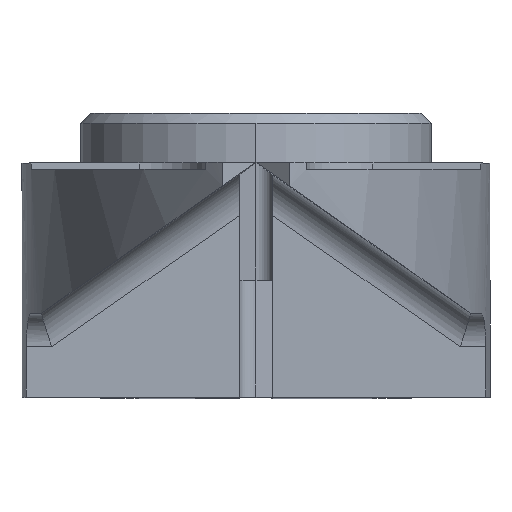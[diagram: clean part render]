
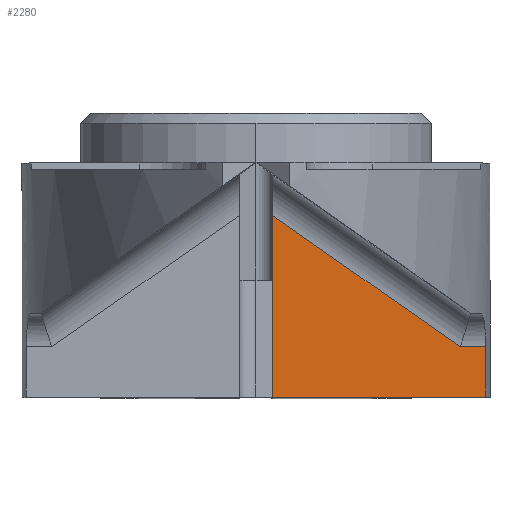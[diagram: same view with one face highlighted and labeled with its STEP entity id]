
A CAD part, top view. The second image highlights one B-rep face of the part: STEP entity #2280.
In plain terms, the highlighted planar face has unit normal (0, 0, 1).
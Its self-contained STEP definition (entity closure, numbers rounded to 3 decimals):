
#209 = EDGE_LOOP ( 'NONE', ( #4107, #2076, #2304, #2268, #3690 ) ) ;
#291 = VERTEX_POINT ( 'NONE', #4147 ) ;
#373 = EDGE_CURVE ( 'NONE', #3301, #4004, #1571, .T. ) ;
#472 = CARTESIAN_POINT ( 'NONE',  ( 6.869, 1.5, 9. ) ) ;
#473 = EDGE_CURVE ( 'NONE', #3301, #4061, #1257, .T. ) ;
#797 = CARTESIAN_POINT ( 'NONE',  ( 3.75, 0., 9. ) ) ;
#830 = CARTESIAN_POINT ( 'NONE',  ( 0.5, 5.429, 9. ) ) ;
#881 = CARTESIAN_POINT ( 'NONE',  ( -0.137, -0.543, 9. ) ) ;
#896 = VECTOR ( 'NONE', #1142, 1000. ) ;
#1078 = CARTESIAN_POINT ( 'NONE',  ( 6.869, 2.715, 9. ) ) ;
#1108 = AXIS2_PLACEMENT_3D ( 'NONE', #881, #1924, #3645 ) ;
#1124 = DIRECTION ( 'NONE',  ( 0., -1., 0. ) ) ;
#1142 = DIRECTION ( 'NONE',  ( -1., 0., 0. ) ) ;
#1257 = LINE ( 'NONE', #2755, #3006 ) ;
#1321 = VECTOR ( 'NONE', #2392, 1000. ) ;
#1571 = LINE ( 'NONE', #1592, #3323 ) ;
#1592 = CARTESIAN_POINT ( 'NONE',  ( 6.49, 1.5, 9. ) ) ;
#1757 = EDGE_CURVE ( 'NONE', #4061, #291, #2430, .T. ) ;
#1796 = LINE ( 'NONE', #797, #896 ) ;
#1924 = DIRECTION ( 'NONE',  ( 0., 0., 1. ) ) ;
#1928 = EDGE_CURVE ( 'NONE', #3238, #291, #1796, .T. ) ;
#2076 = ORIENTED_EDGE ( 'NONE', *, *, #2504, .T. ) ;
#2268 = ORIENTED_EDGE ( 'NONE', *, *, #473, .T. ) ;
#2279 = PLANE ( 'NONE',  #1108 ) ;
#2280 = ADVANCED_FACE ( 'NONE', ( #3490 ), #2279, .T. ) ;
#2304 = ORIENTED_EDGE ( 'NONE', *, *, #373, .F. ) ;
#2392 = DIRECTION ( 'NONE',  ( 0., 1., 0. ) ) ;
#2430 = LINE ( 'NONE', #3538, #4176 ) ;
#2504 = EDGE_CURVE ( 'NONE', #3238, #4004, #3178, .T. ) ;
#2755 = CARTESIAN_POINT ( 'NONE',  ( 6.111, 1.5, 9. ) ) ;
#2980 = CARTESIAN_POINT ( 'NONE',  ( 6.869, 0., 9. ) ) ;
#3006 = VECTOR ( 'NONE', #3489, 1000. ) ;
#3178 = LINE ( 'NONE', #1078, #1321 ) ;
#3238 = VERTEX_POINT ( 'NONE', #2980 ) ;
#3301 = VERTEX_POINT ( 'NONE', #4388 ) ;
#3323 = VECTOR ( 'NONE', #4350, 1000. ) ;
#3489 = DIRECTION ( 'NONE',  ( -0.819, 0.574, 0. ) ) ;
#3490 = FACE_OUTER_BOUND ( 'NONE', #209, .T. ) ;
#3538 = CARTESIAN_POINT ( 'NONE',  ( 0.5, 2.715, 9. ) ) ;
#3645 = DIRECTION ( 'NONE',  ( 1., 0., 0. ) ) ;
#3690 = ORIENTED_EDGE ( 'NONE', *, *, #1757, .T. ) ;
#4004 = VERTEX_POINT ( 'NONE', #472 ) ;
#4061 = VERTEX_POINT ( 'NONE', #830 ) ;
#4107 = ORIENTED_EDGE ( 'NONE', *, *, #1928, .F. ) ;
#4147 = CARTESIAN_POINT ( 'NONE',  ( 0.5, 0., 9. ) ) ;
#4176 = VECTOR ( 'NONE', #1124, 1000. ) ;
#4350 = DIRECTION ( 'NONE',  ( 1., 0., 0. ) ) ;
#4388 = CARTESIAN_POINT ( 'NONE',  ( 6.111, 1.5, 9. ) ) ;
